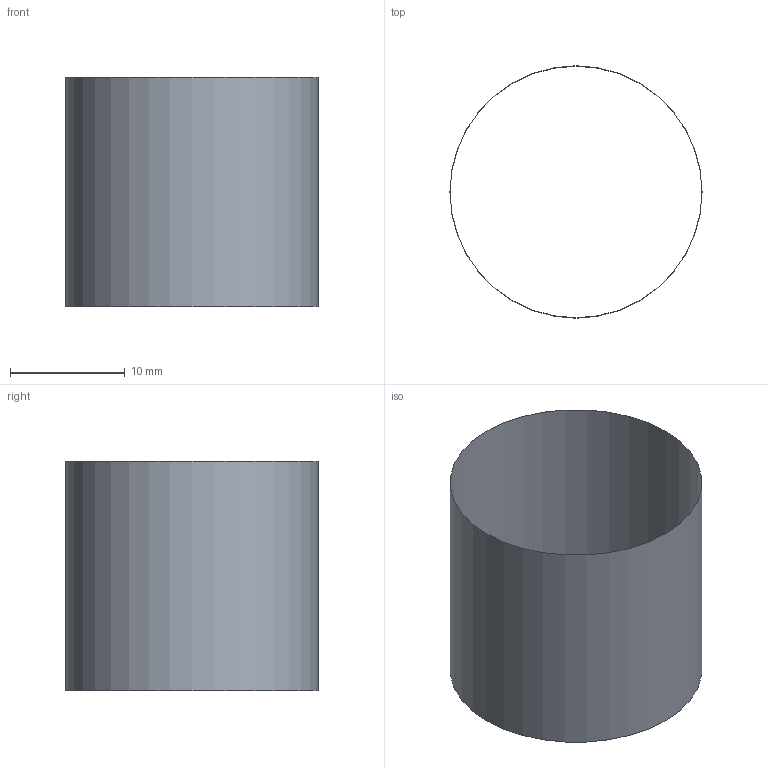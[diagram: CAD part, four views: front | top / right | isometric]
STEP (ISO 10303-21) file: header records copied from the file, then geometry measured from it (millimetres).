
FILE_DESCRIPTION(('BRL-CAD AP214 offset extrusion fixture'),'2;1');
FILE_NAME('ap214_offset_extrusion.stp','2026-08-04T00:00:00',('BRL-CAD'),('BRL-CAD'),'','','');
FILE_SCHEMA(('AUTOMOTIVE_DESIGN { 1 0 10303 214 3 1 1 1 }'));
Length unit declared in the file: millimetre
Products named in the file (1): offset_extrusion
Bounding box: 22 x 22 x 20 mm (x, y, z)
Surface area: 1382.3 mm2 (no closed solid volume)
Topology: 0 solids, 1 shells, 1 faces, 3 edges, 2 vertices
Faces by surface type: offset 1
Entity records: 38 total; most frequent: CARTESIAN_POINT 4, CIRCLE 3, DIRECTION 2, AXIS2_PLACEMENT_3D 2, VERTEX_POINT 2, EDGE_CURVE 2, ORIENTED_EDGE 2, EDGE_LOOP 2
